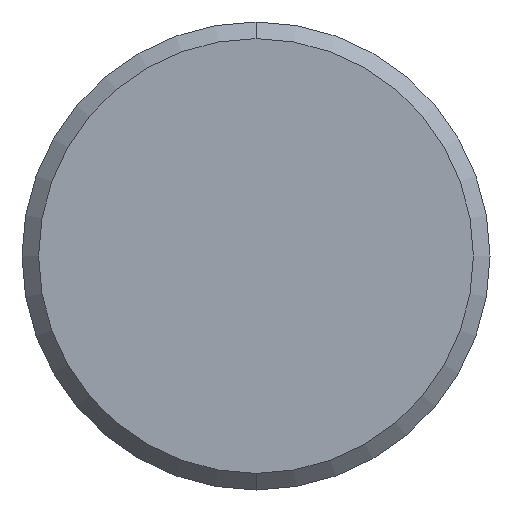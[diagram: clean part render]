
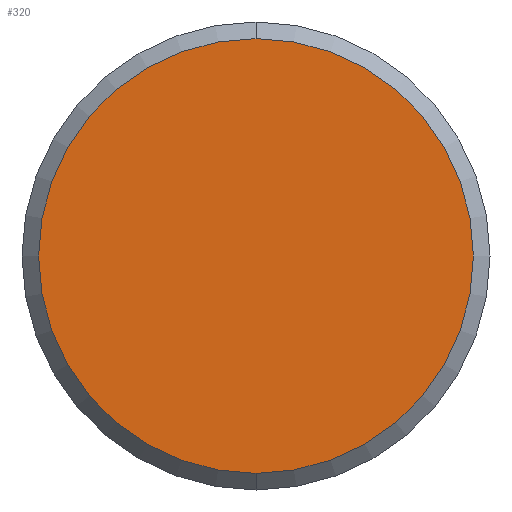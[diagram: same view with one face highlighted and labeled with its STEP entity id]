
A CAD part, front view. The second image highlights one B-rep face of the part: STEP entity #320.
In plain terms, the highlighted planar face has unit normal (0, -1, 0).
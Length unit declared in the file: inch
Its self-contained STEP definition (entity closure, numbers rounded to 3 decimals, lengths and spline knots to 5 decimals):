
#13 = AXIS2_PLACEMENT_3D ( 'NONE', #693, #694, #695 ) ;
#17 = AXIS2_PLACEMENT_3D ( 'NONE', #249, #248, #247 ) ;
#57 = AXIS2_PLACEMENT_3D ( 'NONE', #1159, #1160, #1161 ) ;
#138 = EDGE_CURVE ( 'NONE', #1331, #1329, #521, .T. ) ;
#169 = EDGE_CURVE ( 'NONE', #1329, #1331, #480, .T. ) ;
#247 = DIRECTION ( 'NONE',  ( 0., 0., 1. ) ) ;
#248 = DIRECTION ( 'NONE',  ( 0., -1., 0. ) ) ;
#249 = CARTESIAN_POINT ( 'NONE',  ( -2.71525, 0.29008, 0. ) ) ;
#320 = ADVANCED_FACE ( 'NONE', ( #841 ), #1150, .T. ) ;
#480 = CIRCLE ( 'NONE', #13, 0.8175 ) ;
#521 = CIRCLE ( 'NONE', #17, 0.8175 ) ;
#614 = EDGE_LOOP ( 'NONE', ( #634, #633 ) ) ;
#633 = ORIENTED_EDGE ( 'NONE', *, *, #169, .T. ) ;
#634 = ORIENTED_EDGE ( 'NONE', *, *, #138, .T. ) ;
#693 = CARTESIAN_POINT ( 'NONE',  ( -2.71525, 0.29008, 0. ) ) ;
#694 = DIRECTION ( 'NONE',  ( 0., -1., 0. ) ) ;
#695 = DIRECTION ( 'NONE',  ( 0., 0., 1. ) ) ;
#841 = FACE_OUTER_BOUND ( 'NONE', #614, .T. ) ;
#1150 = PLANE ( 'NONE',  #57 ) ;
#1159 = CARTESIAN_POINT ( 'NONE',  ( -2.03125, 0.29008, 0. ) ) ;
#1160 = DIRECTION ( 'NONE',  ( 0., -1., 0. ) ) ;
#1161 = DIRECTION ( 'NONE',  ( 0., 0., -1. ) ) ;
#1189 = CARTESIAN_POINT ( 'NONE',  ( -2.71525, 0.29008, 0.8175 ) ) ;
#1192 = CARTESIAN_POINT ( 'NONE',  ( -2.71525, 0.29008, -0.8175 ) ) ;
#1329 = VERTEX_POINT ( 'NONE', #1192 ) ;
#1331 = VERTEX_POINT ( 'NONE', #1189 ) ;
